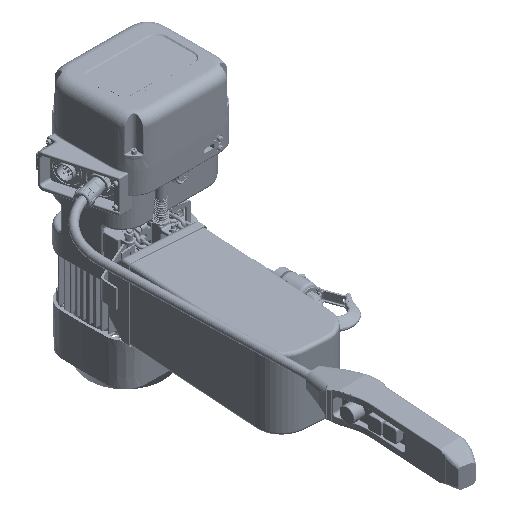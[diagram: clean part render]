
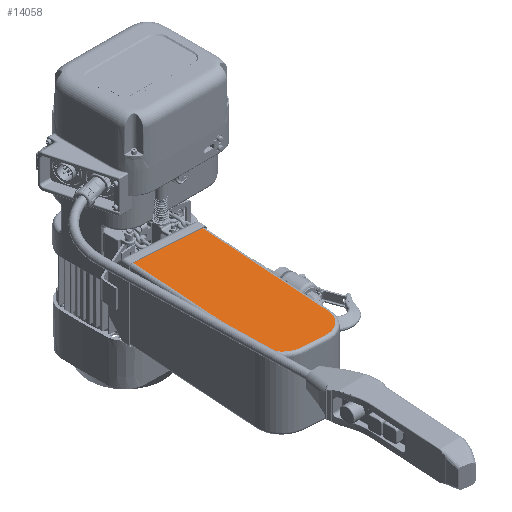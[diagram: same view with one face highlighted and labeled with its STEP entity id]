
A CAD part, isometric view. The second image highlights one B-rep face of the part: STEP entity #14058.
In plain terms, the highlighted planar face has unit normal (0, 0, 1) as drawn and (-1, 0, 0) by its records, which use the part's own axes.
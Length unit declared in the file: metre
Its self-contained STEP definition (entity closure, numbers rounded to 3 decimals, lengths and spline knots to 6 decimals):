
#138 = VERTEX_POINT ( 'NONE', #12417 ) ;
#257 = VERTEX_POINT ( 'NONE', #127704 ) ;
#9905 = CARTESIAN_POINT ( 'NONE',  ( 0.001642, -0.27385, -0.007874 ) ) ;
#11064 = ORIENTED_EDGE ( 'NONE', *, *, #19267, .T. ) ;
#12417 = CARTESIAN_POINT ( 'NONE',  ( 0.001642, -0.3175, -0.051524 ) ) ;
#12511 = VECTOR ( 'NONE', #49823, 1. ) ;
#14058 = ADVANCED_FACE ( 'NONE', ( #45985 ), #87550, .F. ) ;
#19267 = EDGE_CURVE ( 'NONE', #21475, #138, #108349, .T. ) ;
#21475 = VERTEX_POINT ( 'NONE', #44553 ) ;
#23718 = CARTESIAN_POINT ( 'NONE',  ( 0.001642, 0.0127, -0.007874 ) ) ;
#27671 = VECTOR ( 'NONE', #186304, 1. ) ;
#31472 = CIRCLE ( 'NONE', #86540, 0.04365 ) ;
#32979 = EDGE_CURVE ( 'NONE', #138, #125128, #31472, .T. ) ;
#39170 = ORIENTED_EDGE ( 'NONE', *, *, #115215, .T. ) ;
#44553 = CARTESIAN_POINT ( 'NONE',  ( 0.001642, -0.3175, -0.096558 ) ) ;
#45985 = FACE_OUTER_BOUND ( 'NONE', #157928, .T. ) ;
#49823 = DIRECTION ( 'NONE',  ( 0., -1., 0. ) ) ;
#55736 = VERTEX_POINT ( 'NONE', #199208 ) ;
#63159 = DIRECTION ( 'NONE',  ( 0., 0., -1. ) ) ;
#64998 = LINE ( 'NONE', #68986, #12511 ) ;
#65630 = VECTOR ( 'NONE', #128058, 1. ) ;
#68203 = EDGE_CURVE ( 'NONE', #257, #21475, #92384, .T. ) ;
#68986 = CARTESIAN_POINT ( 'NONE',  ( 0.001642, -0.27385, -0.140208 ) ) ;
#80360 = CARTESIAN_POINT ( 'NONE',  ( 0.001642, 0.0127, -0.001524 ) ) ;
#80673 = EDGE_CURVE ( 'NONE', #197122, #55736, #127944, .T. ) ;
#86540 = AXIS2_PLACEMENT_3D ( 'NONE', #118518, #102290, #181239 ) ;
#87550 = PLANE ( 'NONE',  #198010 ) ;
#91723 = DIRECTION ( 'NONE',  ( 0., 0., -1. ) ) ;
#92384 = CIRCLE ( 'NONE', #176450, 0.04365 ) ;
#102290 = DIRECTION ( 'NONE',  ( -1., 0., 0. ) ) ;
#107894 = DIRECTION ( 'NONE',  ( -1., 0., 0. ) ) ;
#108349 = LINE ( 'NONE', #155928, #27671 ) ;
#115215 = EDGE_CURVE ( 'NONE', #55736, #257, #64998, .T. ) ;
#118518 = CARTESIAN_POINT ( 'NONE',  ( 0.001642, -0.27385, -0.051524 ) ) ;
#123647 = ORIENTED_EDGE ( 'NONE', *, *, #68203, .T. ) ;
#123923 = CARTESIAN_POINT ( 'NONE',  ( 0.001642, -0.27385, -0.096558 ) ) ;
#125128 = VERTEX_POINT ( 'NONE', #9905 ) ;
#125940 = DIRECTION ( 'NONE',  ( 0., 0., -1. ) ) ;
#127704 = CARTESIAN_POINT ( 'NONE',  ( 0.001642, -0.27385, -0.140208 ) ) ;
#127944 = LINE ( 'NONE', #80360, #143160 ) ;
#128058 = DIRECTION ( 'NONE',  ( 0., 1., 0. ) ) ;
#140099 = DIRECTION ( 'NONE',  ( 1., 0., 0. ) ) ;
#140270 = CARTESIAN_POINT ( 'NONE',  ( 0.001642, -0.27385, -0.007874 ) ) ;
#143160 = VECTOR ( 'NONE', #125940, 1. ) ;
#146437 = ORIENTED_EDGE ( 'NONE', *, *, #181044, .T. ) ;
#148390 = ORIENTED_EDGE ( 'NONE', *, *, #80673, .T. ) ;
#152498 = CARTESIAN_POINT ( 'NONE',  ( 0.001642, -0.27385, -0.096558 ) ) ;
#155928 = CARTESIAN_POINT ( 'NONE',  ( 0.001642, -0.3175, -0.096558 ) ) ;
#157928 = EDGE_LOOP ( 'NONE', ( #148390, #39170, #123647, #11064, #164600, #146437 ) ) ;
#164600 = ORIENTED_EDGE ( 'NONE', *, *, #32979, .T. ) ;
#176450 = AXIS2_PLACEMENT_3D ( 'NONE', #152498, #107894, #91723 ) ;
#181044 = EDGE_CURVE ( 'NONE', #125128, #197122, #185836, .T. ) ;
#181239 = DIRECTION ( 'NONE',  ( 0., 0., -1. ) ) ;
#185836 = LINE ( 'NONE', #140270, #65630 ) ;
#186304 = DIRECTION ( 'NONE',  ( 0., 0., 1. ) ) ;
#197122 = VERTEX_POINT ( 'NONE', #23718 ) ;
#198010 = AXIS2_PLACEMENT_3D ( 'NONE', #123923, #140099, #63159 ) ;
#199208 = CARTESIAN_POINT ( 'NONE',  ( 0.001642, 0.0127, -0.140208 ) ) ;
